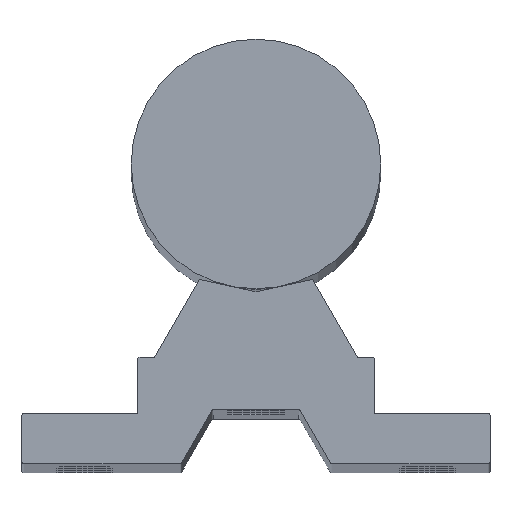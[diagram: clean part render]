
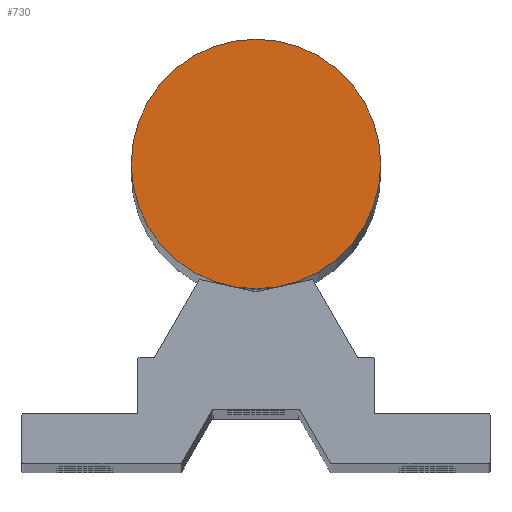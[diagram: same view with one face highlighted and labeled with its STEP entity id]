
A CAD part, top view. The second image highlights one B-rep face of the part: STEP entity #730.
In plain terms, the highlighted planar face has unit normal (0, 0, 1).
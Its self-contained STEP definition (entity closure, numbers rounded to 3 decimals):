
#18 = EDGE_CURVE ( 'NONE', #2342, #2953, #2164, .T. ) ;
#348 = EDGE_CURVE ( 'NONE', #2953, #2342, #629, .T. ) ;
#350 = DIRECTION ( 'NONE',  ( 0., 0., 1. ) ) ;
#629 = CIRCLE ( 'NONE', #2305, 20. ) ;
#730 = ADVANCED_FACE ( 'NONE', ( #1661 ), #1270, .T. ) ;
#1061 = AXIS2_PLACEMENT_3D ( 'NONE', #2626, #1500, #2425 ) ;
#1270 = PLANE ( 'NONE',  #2403 ) ;
#1419 = CARTESIAN_POINT ( 'NONE',  ( 0., 0., 425. ) ) ;
#1500 = DIRECTION ( 'NONE',  ( 0., 0., 1. ) ) ;
#1645 = EDGE_LOOP ( 'NONE', ( #2989, #2559 ) ) ;
#1647 = DIRECTION ( 'NONE',  ( 1., 0., 0. ) ) ;
#1661 = FACE_OUTER_BOUND ( 'NONE', #1645, .T. ) ;
#1897 = CARTESIAN_POINT ( 'NONE',  ( 0., 0., 425. ) ) ;
#2031 = CARTESIAN_POINT ( 'NONE',  ( 20., 0., 425. ) ) ;
#2074 = CARTESIAN_POINT ( 'NONE',  ( -20., 0., 425. ) ) ;
#2164 = CIRCLE ( 'NONE', #1061, 20. ) ;
#2305 = AXIS2_PLACEMENT_3D ( 'NONE', #1419, #2557, #2339 ) ;
#2339 = DIRECTION ( 'NONE',  ( 1., 0., 0. ) ) ;
#2342 = VERTEX_POINT ( 'NONE', #2074 ) ;
#2403 = AXIS2_PLACEMENT_3D ( 'NONE', #1897, #350, #1647 ) ;
#2425 = DIRECTION ( 'NONE',  ( 1., 0., 0. ) ) ;
#2557 = DIRECTION ( 'NONE',  ( 0., 0., 1. ) ) ;
#2559 = ORIENTED_EDGE ( 'NONE', *, *, #348, .T. ) ;
#2626 = CARTESIAN_POINT ( 'NONE',  ( 0., 0., 425. ) ) ;
#2953 = VERTEX_POINT ( 'NONE', #2031 ) ;
#2989 = ORIENTED_EDGE ( 'NONE', *, *, #18, .T. ) ;
